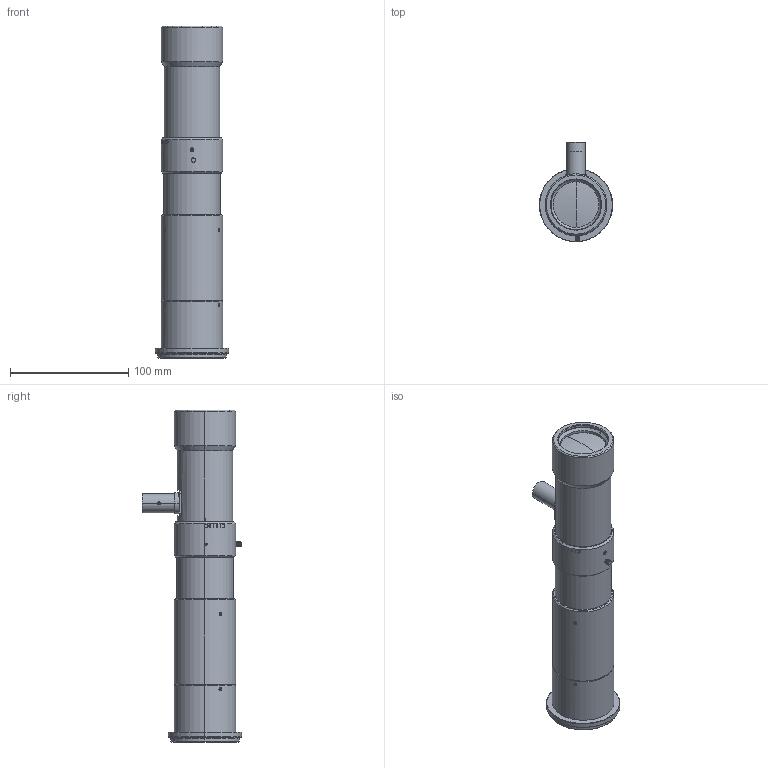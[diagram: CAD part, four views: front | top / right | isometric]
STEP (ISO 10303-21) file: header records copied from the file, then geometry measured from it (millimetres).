
FILE_DESCRIPTION (( 'STEP AP214' ), '1' );
FILE_NAME ('MML3-HR110DVI-43M58-FB11.48.STEP', '2026-02-17T00:24:39', ( '' ), ( '' ), 'SwSTEP 2.0', 'SolidWorks 2025', '' );
FILE_SCHEMA (( 'AUTOMOTIVE_DESIGN' ));
Length unit declared in the file: millimetre
Products named in the file (1): MML3-HR110DVI-43M58-FB11.48
Bounding box: 62 x 83.8 x 280.35 mm (x, y, z)
Volume: 409271.7 mm3; surface area: 72307.9 mm2
Topology: 1 solids, 9 shells, 737 faces, 1863 edges, 1196 vertices
Faces by surface type: plane 272, cylinder 231, cone 156, bspline 56, sphere 12, torus 10
Entity records: 31515 total; most frequent: CARTESIAN_POINT 14645, ORIENTED_EDGE 3714, DIRECTION 3203, EDGE_CURVE 1857, AXIS2_PLACEMENT_3D 1264, VERTEX_POINT 1196, EDGE_LOOP 801, FACE_OUTER_BOUND 737
